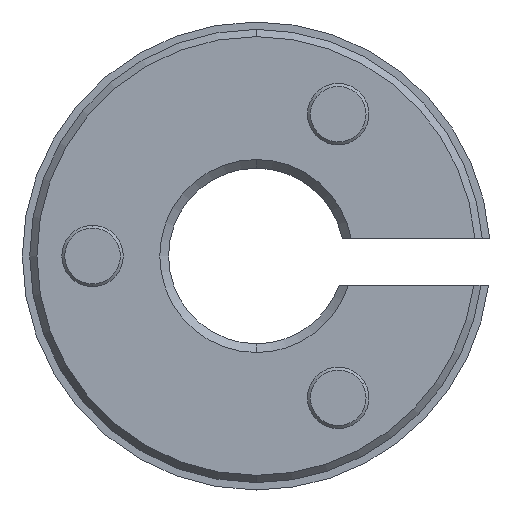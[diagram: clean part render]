
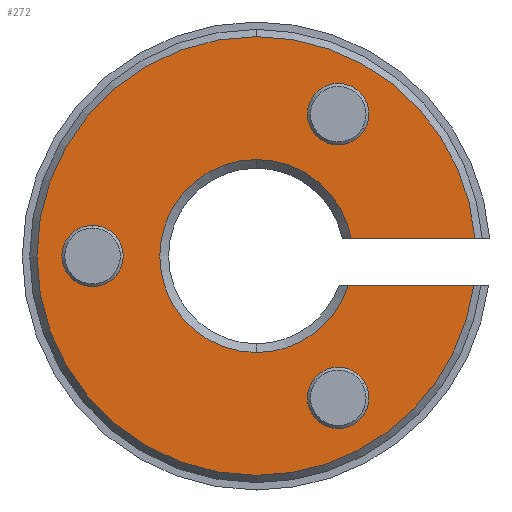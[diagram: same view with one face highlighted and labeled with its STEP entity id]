
A CAD part, left-side view. The second image highlights one B-rep face of the part: STEP entity #272.
In plain terms, the highlighted planar face has unit normal (-1, 0, 0).
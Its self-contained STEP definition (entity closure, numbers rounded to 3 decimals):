
#2 = DIRECTION ( 'NONE',  ( 0., 1., 0. ) ) ;
#87 = CARTESIAN_POINT ( 'NONE',  ( 0., 0., 0. ) ) ;
#95 = DIRECTION ( 'NONE',  ( 0., 0.5, 0.866 ) ) ;
#103 = CARTESIAN_POINT ( 'NONE',  ( 0., 0., 0. ) ) ;
#104 = CARTESIAN_POINT ( 'NONE',  ( 0., -3.325, -3.94 ) ) ;
#108 = CIRCLE ( 'NONE', #1433, 7.5 ) ;
#121 = DIRECTION ( 'NONE',  ( 1., 0., 0. ) ) ;
#181 = AXIS2_PLACEMENT_3D ( 'NONE', #3199, #389, #95 ) ;
#272 = ADVANCED_FACE ( 'NONE', ( #3416, #1909, #3116, #1312 ), #394, .F. ) ;
#279 = CIRCLE ( 'NONE', #3637, 1.05 ) ;
#359 = CIRCLE ( 'NONE', #2322, 7.5 ) ;
#389 = DIRECTION ( 'NONE',  ( -1., 0., 0. ) ) ;
#394 = PLANE ( 'NONE',  #3639 ) ;
#401 = VERTEX_POINT ( 'NONE', #3768 ) ;
#419 = DIRECTION ( 'NONE',  ( 1., 0., 0. ) ) ;
#438 = CIRCLE ( 'NONE', #815, 1.05 ) ;
#448 = CIRCLE ( 'NONE', #1534, 1.05 ) ;
#459 = VERTEX_POINT ( 'NONE', #1130 ) ;
#489 = DIRECTION ( 'NONE',  ( 0., 0.5, -0.866 ) ) ;
#508 = CARTESIAN_POINT ( 'NONE',  ( 0., -7.433, -1. ) ) ;
#556 = CARTESIAN_POINT ( 'NONE',  ( 0., -2.8, 4.85 ) ) ;
#593 = EDGE_CURVE ( 'NONE', #3251, #2863, #2313, .T. ) ;
#622 = CARTESIAN_POINT ( 'NONE',  ( 0., 0., 3.3 ) ) ;
#644 = VECTOR ( 'NONE', #1873, 1000. ) ;
#656 = CARTESIAN_POINT ( 'NONE',  ( 0., -7.433, -1. ) ) ;
#704 = CARTESIAN_POINT ( 'NONE',  ( 0., -3.145, -1. ) ) ;
#798 = CARTESIAN_POINT ( 'NONE',  ( 0., -3.245, 0.6 ) ) ;
#813 = DIRECTION ( 'NONE',  ( 0., -0.991, -0.133 ) ) ;
#815 = AXIS2_PLACEMENT_3D ( 'NONE', #1505, #1210, #3619 ) ;
#824 = ORIENTED_EDGE ( 'NONE', *, *, #1674, .F. ) ;
#837 = EDGE_CURVE ( 'NONE', #1891, #2299, #279, .T. ) ;
#939 = ORIENTED_EDGE ( 'NONE', *, *, #593, .T. ) ;
#941 = DIRECTION ( 'NONE',  ( 1., 0., 0. ) ) ;
#959 = DIRECTION ( 'NONE',  ( 1., 0., 0. ) ) ;
#961 = EDGE_CURVE ( 'NONE', #401, #2881, #2429, .T. ) ;
#963 = CARTESIAN_POINT ( 'NONE',  ( 0., -2.275, -5.759 ) ) ;
#988 = EDGE_LOOP ( 'NONE', ( #824, #1152 ) ) ;
#1012 = AXIS2_PLACEMENT_3D ( 'NONE', #556, #1202, #2 ) ;
#1035 = DIRECTION ( 'NONE',  ( 0., -0.991, -0.133 ) ) ;
#1093 = DIRECTION ( 'NONE',  ( -1., 0., 0. ) ) ;
#1099 = EDGE_CURVE ( 'NONE', #1103, #459, #2984, .T. ) ;
#1103 = VERTEX_POINT ( 'NONE', #3646 ) ;
#1120 = CARTESIAN_POINT ( 'NONE',  ( 0., 5.075, -0.909 ) ) ;
#1130 = CARTESIAN_POINT ( 'NONE',  ( 0., -1.75, 4.85 ) ) ;
#1152 = ORIENTED_EDGE ( 'NONE', *, *, #1099, .F. ) ;
#1153 = CARTESIAN_POINT ( 'NONE',  ( 0., -7.476, 0.6 ) ) ;
#1159 = ORIENTED_EDGE ( 'NONE', *, *, #837, .F. ) ;
#1202 = DIRECTION ( 'NONE',  ( -1., 0., 0. ) ) ;
#1205 = CIRCLE ( 'NONE', #3604, 3.3 ) ;
#1210 = DIRECTION ( 'NONE',  ( -1., 0., 0. ) ) ;
#1297 = LINE ( 'NONE', #656, #644 ) ;
#1302 = AXIS2_PLACEMENT_3D ( 'NONE', #3707, #959, #3629 ) ;
#1311 = ORIENTED_EDGE ( 'NONE', *, *, #961, .F. ) ;
#1312 = FACE_OUTER_BOUND ( 'NONE', #1382, .T. ) ;
#1382 = EDGE_LOOP ( 'NONE', ( #3826, #3011, #2436, #939, #2928, #3847, #1311, #3206 ) ) ;
#1398 = EDGE_CURVE ( 'NONE', #2299, #1891, #448, .T. ) ;
#1433 = AXIS2_PLACEMENT_3D ( 'NONE', #103, #2133, #2856 ) ;
#1493 = EDGE_CURVE ( 'NONE', #3108, #1738, #438, .T. ) ;
#1505 = CARTESIAN_POINT ( 'NONE',  ( 0., 5.6, 0. ) ) ;
#1534 = AXIS2_PLACEMENT_3D ( 'NONE', #3369, #2183, #1588 ) ;
#1588 = DIRECTION ( 'NONE',  ( 0., -0.5, 0.866 ) ) ;
#1609 = ORIENTED_EDGE ( 'NONE', *, *, #1493, .F. ) ;
#1610 = DIRECTION ( 'NONE',  ( 1., 0., 0. ) ) ;
#1632 = EDGE_CURVE ( 'NONE', #1738, #3108, #3779, .T. ) ;
#1635 = DIRECTION ( 'NONE',  ( 0., -0.953, -0.303 ) ) ;
#1674 = EDGE_CURVE ( 'NONE', #459, #1103, #2904, .T. ) ;
#1738 = VERTEX_POINT ( 'NONE', #3023 ) ;
#1837 = EDGE_CURVE ( 'NONE', #3897, #2420, #1205, .T. ) ;
#1873 = DIRECTION ( 'NONE',  ( 0., 1., 0. ) ) ;
#1891 = VERTEX_POINT ( 'NONE', #963 ) ;
#1909 = FACE_BOUND ( 'NONE', #3539, .T. ) ;
#1966 = CARTESIAN_POINT ( 'NONE',  ( 0., 0., 0. ) ) ;
#2133 = DIRECTION ( 'NONE',  ( 1., 0., 0. ) ) ;
#2148 = DIRECTION ( 'NONE',  ( 0., -1., 0. ) ) ;
#2154 = DIRECTION ( 'NONE',  ( 0., -0.953, -0.303 ) ) ;
#2183 = DIRECTION ( 'NONE',  ( -1., 0., 0. ) ) ;
#2299 = VERTEX_POINT ( 'NONE', #104 ) ;
#2313 = CIRCLE ( 'NONE', #1302, 3.3 ) ;
#2322 = AXIS2_PLACEMENT_3D ( 'NONE', #1966, #121, #1035 ) ;
#2345 = EDGE_CURVE ( 'NONE', #2537, #3897, #1297, .T. ) ;
#2385 = VECTOR ( 'NONE', #3418, 1000. ) ;
#2420 = VERTEX_POINT ( 'NONE', #3759 ) ;
#2429 = CIRCLE ( 'NONE', #2929, 7.5 ) ;
#2436 = ORIENTED_EDGE ( 'NONE', *, *, #2679, .T. ) ;
#2443 = DIRECTION ( 'NONE',  ( -1., 0., 0. ) ) ;
#2487 = AXIS2_PLACEMENT_3D ( 'NONE', #2758, #2443, #2148 ) ;
#2537 = VERTEX_POINT ( 'NONE', #508 ) ;
#2557 = LINE ( 'NONE', #3118, #2385 ) ;
#2679 = EDGE_CURVE ( 'NONE', #2420, #3251, #2709, .T. ) ;
#2680 = ORIENTED_EDGE ( 'NONE', *, *, #1632, .F. ) ;
#2709 = CIRCLE ( 'NONE', #3708, 3.3 ) ;
#2758 = CARTESIAN_POINT ( 'NONE',  ( 0., -2.8, 4.85 ) ) ;
#2814 = DIRECTION ( 'NONE',  ( 0., 1., 0. ) ) ;
#2856 = DIRECTION ( 'NONE',  ( 0., -0.991, -0.133 ) ) ;
#2863 = VERTEX_POINT ( 'NONE', #798 ) ;
#2881 = VERTEX_POINT ( 'NONE', #3200 ) ;
#2904 = CIRCLE ( 'NONE', #1012, 1.05 ) ;
#2928 = ORIENTED_EDGE ( 'NONE', *, *, #3150, .F. ) ;
#2929 = AXIS2_PLACEMENT_3D ( 'NONE', #3912, #3530, #813 ) ;
#2984 = CIRCLE ( 'NONE', #2487, 1.05 ) ;
#3011 = ORIENTED_EDGE ( 'NONE', *, *, #1837, .T. ) ;
#3023 = CARTESIAN_POINT ( 'NONE',  ( 0., 6.125, 0.909 ) ) ;
#3066 = CARTESIAN_POINT ( 'NONE',  ( 0., 0., 0. ) ) ;
#3108 = VERTEX_POINT ( 'NONE', #1120 ) ;
#3116 = FACE_BOUND ( 'NONE', #988, .T. ) ;
#3118 = CARTESIAN_POINT ( 'NONE',  ( 0., -7.476, 0.6 ) ) ;
#3150 = EDGE_CURVE ( 'NONE', #3269, #2863, #2557, .T. ) ;
#3199 = CARTESIAN_POINT ( 'NONE',  ( 0., 5.6, 0. ) ) ;
#3200 = CARTESIAN_POINT ( 'NONE',  ( 0., 0., 7.5 ) ) ;
#3201 = EDGE_CURVE ( 'NONE', #2881, #3269, #108, .T. ) ;
#3206 = ORIENTED_EDGE ( 'NONE', *, *, #3228, .F. ) ;
#3228 = EDGE_CURVE ( 'NONE', #2537, #401, #359, .T. ) ;
#3251 = VERTEX_POINT ( 'NONE', #622 ) ;
#3269 = VERTEX_POINT ( 'NONE', #1153 ) ;
#3369 = CARTESIAN_POINT ( 'NONE',  ( 0., -2.8, -4.85 ) ) ;
#3416 = FACE_BOUND ( 'NONE', #3641, .T. ) ;
#3418 = DIRECTION ( 'NONE',  ( 0., 1., 0. ) ) ;
#3433 = CARTESIAN_POINT ( 'NONE',  ( 0., 0., 0. ) ) ;
#3490 = CARTESIAN_POINT ( 'NONE',  ( 0., -2.8, -4.85 ) ) ;
#3530 = DIRECTION ( 'NONE',  ( 1., 0., 0. ) ) ;
#3539 = EDGE_LOOP ( 'NONE', ( #3698, #1159 ) ) ;
#3604 = AXIS2_PLACEMENT_3D ( 'NONE', #87, #419, #1635 ) ;
#3619 = DIRECTION ( 'NONE',  ( 0., -0.5, -0.866 ) ) ;
#3629 = DIRECTION ( 'NONE',  ( 0., -0.953, -0.303 ) ) ;
#3637 = AXIS2_PLACEMENT_3D ( 'NONE', #3490, #1093, #489 ) ;
#3639 = AXIS2_PLACEMENT_3D ( 'NONE', #3433, #1610, #2814 ) ;
#3641 = EDGE_LOOP ( 'NONE', ( #1609, #2680 ) ) ;
#3646 = CARTESIAN_POINT ( 'NONE',  ( 0., -3.85, 4.85 ) ) ;
#3698 = ORIENTED_EDGE ( 'NONE', *, *, #1398, .F. ) ;
#3707 = CARTESIAN_POINT ( 'NONE',  ( 0., 0., 0. ) ) ;
#3708 = AXIS2_PLACEMENT_3D ( 'NONE', #3066, #941, #2154 ) ;
#3759 = CARTESIAN_POINT ( 'NONE',  ( 0., 0., -3.3 ) ) ;
#3768 = CARTESIAN_POINT ( 'NONE',  ( 0., 0., -7.5 ) ) ;
#3779 = CIRCLE ( 'NONE', #181, 1.05 ) ;
#3826 = ORIENTED_EDGE ( 'NONE', *, *, #2345, .T. ) ;
#3847 = ORIENTED_EDGE ( 'NONE', *, *, #3201, .F. ) ;
#3897 = VERTEX_POINT ( 'NONE', #704 ) ;
#3912 = CARTESIAN_POINT ( 'NONE',  ( 0., 0., 0. ) ) ;
